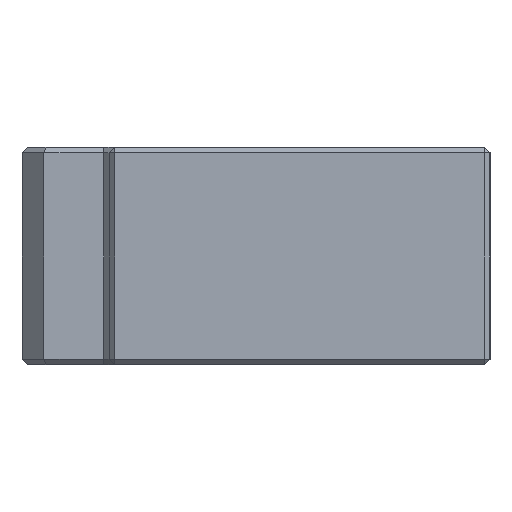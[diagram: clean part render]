
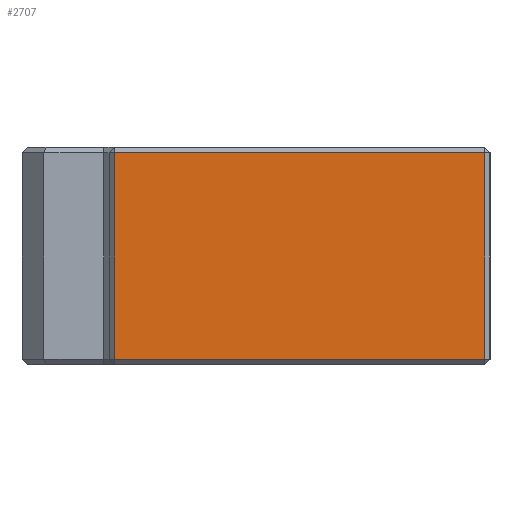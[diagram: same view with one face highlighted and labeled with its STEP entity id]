
A CAD part, left-side view. The second image highlights one B-rep face of the part: STEP entity #2707.
In plain terms, the highlighted planar face has unit normal (-1, 0, 0).
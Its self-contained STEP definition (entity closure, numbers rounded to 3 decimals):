
#2697 = EDGE_LOOP ( 'NONE', ( #2981, #2985, #2988, #2991 ) ) ;
#2707 = ADVANCED_FACE ( 'NONE', ( #5755 ), #5757, .F. ) ;
#2981 = ORIENTED_EDGE ( 'NONE', *, *, #2982, .T. ) ;
#2982 = EDGE_CURVE ( 'NONE', #2983, #2984, #6406, .T. ) ;
#2983 = VERTEX_POINT ( 'NONE', #6402 ) ;
#2984 = VERTEX_POINT ( 'NONE', #6401 ) ;
#2985 = ORIENTED_EDGE ( 'NONE', *, *, #2986, .T. ) ;
#2986 = EDGE_CURVE ( 'NONE', #2984, #2987, #6400, .T. ) ;
#2987 = VERTEX_POINT ( 'NONE', #6331 ) ;
#2988 = ORIENTED_EDGE ( 'NONE', *, *, #2989, .T. ) ;
#2989 = EDGE_CURVE ( 'NONE', #2987, #2990, #6330, .T. ) ;
#2990 = VERTEX_POINT ( 'NONE', #6326 ) ;
#2991 = ORIENTED_EDGE ( 'NONE', *, *, #2992, .T. ) ;
#2992 = EDGE_CURVE ( 'NONE', #2990, #2983, #6325, .T. ) ;
#5750 = DIRECTION ( 'NONE',  ( 0., 0., -1. ) ) ;
#5751 = DIRECTION ( 'NONE',  ( 1., 0., 0. ) ) ;
#5752 = CARTESIAN_POINT ( 'NONE',  ( -35., 0., 10. ) ) ;
#5753 = AXIS2_PLACEMENT_3D ( 'NONE', #5752, #5751, #5750 ) ;
#5755 = FACE_OUTER_BOUND ( 'NONE', #2697, .T. ) ;
#5757 = PLANE ( 'NONE',  #5753 ) ;
#6322 = DIRECTION ( 'NONE',  ( 0., 1., 0. ) ) ;
#6323 = VECTOR ( 'NONE', #6322, 1000. ) ;
#6324 = CARTESIAN_POINT ( 'NONE',  ( -35., 0., 9.5 ) ) ;
#6325 = LINE ( 'NONE', #6324, #6323 ) ;
#6326 = CARTESIAN_POINT ( 'NONE',  ( -35., 0.5, 9.5 ) ) ;
#6327 = DIRECTION ( 'NONE',  ( 0., 0., 1. ) ) ;
#6328 = VECTOR ( 'NONE', #6327, 1000. ) ;
#6329 = CARTESIAN_POINT ( 'NONE',  ( -35., 0.5, 10. ) ) ;
#6330 = LINE ( 'NONE', #6329, #6328 ) ;
#6331 = CARTESIAN_POINT ( 'NONE',  ( -35., 0.5, -9.5 ) ) ;
#6397 = DIRECTION ( 'NONE',  ( 0., -1., 0. ) ) ;
#6398 = VECTOR ( 'NONE', #6397, 1000. ) ;
#6399 = CARTESIAN_POINT ( 'NONE',  ( -35., 0., -9.5 ) ) ;
#6400 = LINE ( 'NONE', #6399, #6398 ) ;
#6401 = CARTESIAN_POINT ( 'NONE',  ( -35., 34.5, -9.5 ) ) ;
#6402 = CARTESIAN_POINT ( 'NONE',  ( -35., 34.5, 9.5 ) ) ;
#6403 = DIRECTION ( 'NONE',  ( 0., 0., -1. ) ) ;
#6404 = VECTOR ( 'NONE', #6403, 1000. ) ;
#6405 = CARTESIAN_POINT ( 'NONE',  ( -35., 34.5, 10. ) ) ;
#6406 = LINE ( 'NONE', #6405, #6404 ) ;
